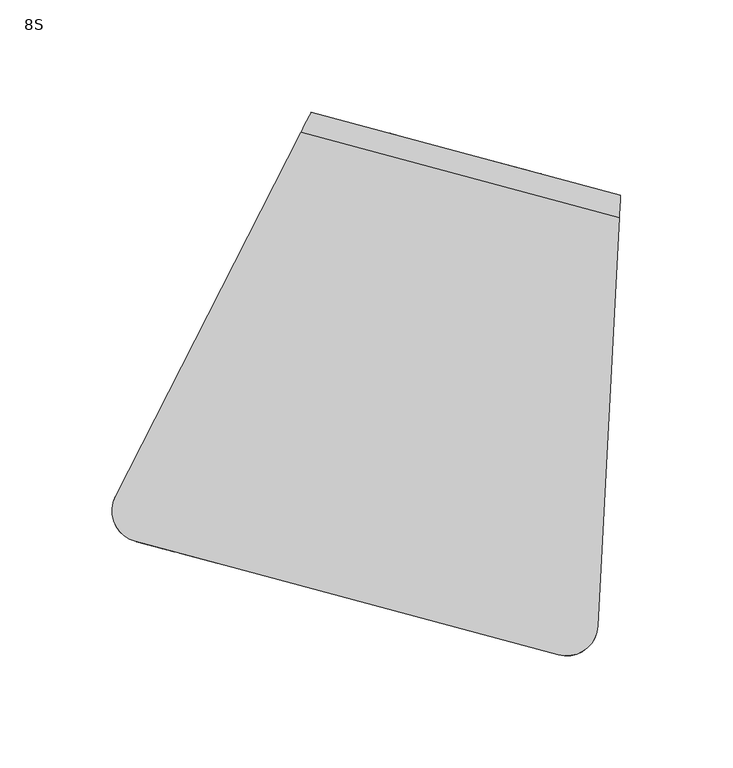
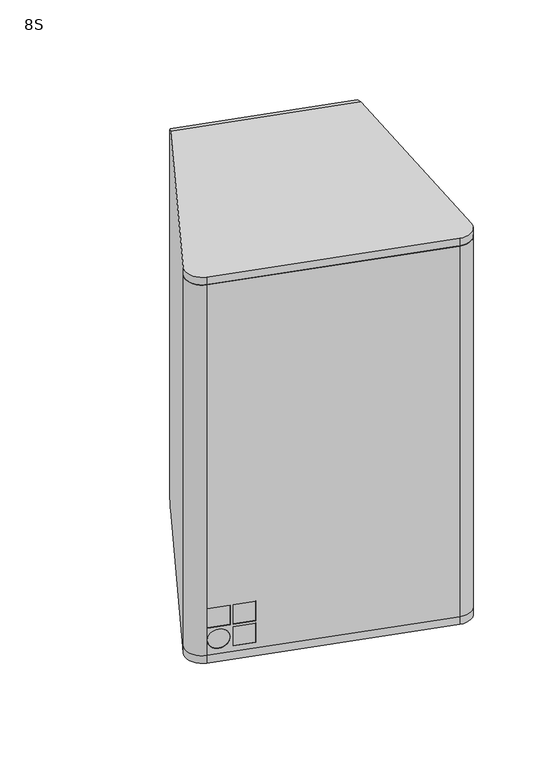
"""IFC4 building model written with IfcOpenShell, lengths in millimetres: proxy geometry, d&b xS-Series 8S Point Source : 8S."""

import ifcopenshell
import ifcopenshell.guid

model = None  # the IFC model being written
_history = None  # IfcOwnerHistory: only IFC2X3 demands one
_inside = {}  # id of a spatial element -> (the spatial element, [elements in it])
_under = {}  # id of a project, library or spatial element -> (it, [spatial elements below it])
_declared = {}  # id of a project -> (the project, [libraries it declares])
_typed = {}  # id of a type object -> (the type object, [elements of that type])
_made_of = {}  # id of a material, layer set ... -> (it, [elements and type objects made of it])


def new_model(schema):
    """Start an empty IFC model of exactly this schema.

    Asked for "IFC4X3", IfcOpenShell would pick the latest addendum, in which some entities
    have other attributes; the version numbers below select the first issue.
    IFC2X3 requires an IfcOwnerHistory on every rooted entity: one is made here for all.
    """
    global model, _history
    if schema == "IFC4X3":
        model = ifcopenshell.file(schema_version=(4, 3, 0, 0))
    else:
        model = ifcopenshell.file(schema=schema)
    _inside.clear()
    _under.clear()
    _declared.clear()
    _typed.clear()
    _made_of.clear()
    _history = None
    if model.schema == "IFC2X3":
        org = make("IfcOrganization", Name="unknown")
        user = make(
            "IfcPersonAndOrganization",
            ThePerson=make("IfcPerson", FamilyName="unknown"),
            TheOrganization=org,
        )
        app = make(
            "IfcApplication",
            ApplicationDeveloper=org,
            Version="unknown",
            ApplicationFullName="unknown",
            ApplicationIdentifier="unknown",
        )
        _history = make(
            "IfcOwnerHistory",
            OwningUser=user,
            OwningApplication=app,
            ChangeAction="ADDED",
            CreationDate=0,
        )
    return model


def make(cls, **values):
    """One entity of the class cls with the attributes given. An attribute that is None is left unset."""
    return model.create_entity(
        cls, **{name: value for name, value in values.items() if value is not None}
    )


def rooted(cls, **values):
    """An entity with a GlobalId (a new one), such as an element, a storey or a relation."""
    return make(cls, GlobalId=ifcopenshell.guid.new(), OwnerHistory=_history, **values)


def si_unit(unit_type, name, prefix=None):
    """IfcSIUnit, for example si_unit("LENGTHUNIT", "METRE", prefix="MILLI")."""
    return make("IfcSIUnit", UnitType=unit_type, Prefix=prefix, Name=name)


def assignment(units):
    """IfcUnitAssignment: the units of a project."""
    return None if units is None else make("IfcUnitAssignment", Units=units)


def point(xyz):
    """IfcCartesianPoint."""
    return None if xyz is None else make("IfcCartesianPoint", Coordinates=xyz)


def direction(xyz):
    """IfcDirection."""
    return None if xyz is None else make("IfcDirection", DirectionRatios=xyz)


def frame(location, z_axis=None, x_axis=None):
    """IfcAxis2Placement3D, a coordinate frame: its origin and axes. An axis left out is left unset."""
    return make(
        "IfcAxis2Placement3D",
        Location=point(location),
        Axis=direction(z_axis),
        RefDirection=direction(x_axis),
    )


def frame_2d(location, x_axis=None):
    """IfcAxis2Placement2D, a coordinate frame in the plane: its origin and x axis."""
    return make(
        "IfcAxis2Placement2D", Location=point(location), RefDirection=direction(x_axis)
    )


def origin():
    """The frame at (0, 0, 0) with its axes left unset."""
    return frame((0.0, 0.0, 0.0))


def place(relative_to, where):
    """IfcLocalPlacement: puts the frame where relative to a parent placement (None: the world)."""
    return make(
        "IfcLocalPlacement", PlacementRelTo=relative_to, RelativePlacement=where
    )


def context(
    kind, dimensions, precision=None, world=None, true_north=None, identifier=None
):
    """IfcGeometricRepresentationContext, for example the 3D "Model" context."""
    return make(
        "IfcGeometricRepresentationContext",
        ContextIdentifier=identifier,
        ContextType=kind,
        CoordinateSpaceDimension=dimensions,
        Precision=precision,
        WorldCoordinateSystem=world,
        TrueNorth=true_north,
    )


def project(units=None, contexts=None):
    """IfcProject with its units and contexts."""
    return rooted(
        "IfcProject",
        Name="project",
        RepresentationContexts=contexts,
        UnitsInContext=assignment(units),
    )


def spatial(cls, under=None, at=None, **own):
    """A site, building, storey or space (cls), placed at a placement, below another one or the project."""
    s = rooted(cls, ObjectPlacement=at, **own)
    if under is not None:
        _under.setdefault(under.id(), (under, []))[1].append(s)
    return s


def polyline(points):
    """IfcPolyline through the points."""
    return make("IfcPolyline", Points=[point(p) for p in points])


def circle_curve(where, radius):
    """IfcCircle in the frame where."""
    return make("IfcCircle", Position=where, Radius=radius)


def ellipse_curve(where, semi_axis1, semi_axis2):
    """IfcEllipse in the frame where."""
    return make(
        "IfcEllipse", Position=where, SemiAxis1=semi_axis1, SemiAxis2=semi_axis2
    )


def trimmed(basis, trim1, trim2, sense, master):
    """IfcTrimmedCurve: the piece of a basis curve between two trims."""
    return make(
        "IfcTrimmedCurve",
        BasisCurve=basis,
        Trim1=trim1,
        Trim2=trim2,
        SenseAgreement=sense,
        MasterRepresentation=master,
    )


def segment(curve, same_sense, transition):
    """IfcCompositeCurveSegment."""
    return make(
        "IfcCompositeCurveSegment",
        Transition=transition,
        SameSense=same_sense,
        ParentCurve=curve,
    )


def composite_curve(segments, self_intersect=None):
    """IfcCompositeCurve: segments joined end to end."""
    return make("IfcCompositeCurve", Segments=segments, SelfIntersect=self_intersect)


def outline(outer, holes=None, kind="AREA"):
    """IfcArbitraryClosedProfileDef: a profile drawn as a closed curve; with holes, ...WithVoids."""
    if holes is None:
        return make("IfcArbitraryClosedProfileDef", ProfileType=kind, OuterCurve=outer)
    return make(
        "IfcArbitraryProfileDefWithVoids",
        ProfileType=kind,
        OuterCurve=outer,
        InnerCurves=holes,
    )


def extrude(swept, where, along, depth):
    """IfcExtrudedAreaSolid: the profile swept, set in the frame where, extruded along a direction by depth."""
    return make(
        "IfcExtrudedAreaSolid",
        SweptArea=swept,
        Position=where,
        ExtrudedDirection=direction(along),
        Depth=depth,
    )


def shape(context_of_items, identifier, shape_type, items):
    """IfcShapeRepresentation: the items that make up one representation, for example the "Body"."""
    return make(
        "IfcShapeRepresentation",
        ContextOfItems=context_of_items,
        RepresentationIdentifier=identifier,
        RepresentationType=shape_type,
        Items=items,
    )


def source(mapping_origin, context_of_items, identifier, shape_type, items):
    """IfcRepresentationMap: a shape defined once, which mapped items show again and again."""
    return make(
        "IfcRepresentationMap",
        MappingOrigin=mapping_origin,
        MappedRepresentation=shape(context_of_items, identifier, shape_type, items),
    )


def transform(
    local_origin,
    x_axis=None,
    y_axis=None,
    z_axis=None,
    scale=None,
    scale2=None,
    scale3=None,
    uniform=True,
):
    """IfcCartesianTransformationOperator3D, or its non-uniform kind. x_axis, y_axis, z_axis: its Axis1, 2, 3."""
    if uniform:
        return make(
            "IfcCartesianTransformationOperator3D",
            Axis1=direction(x_axis),
            Axis2=direction(y_axis),
            LocalOrigin=point(local_origin),
            Scale=scale,
            Axis3=direction(z_axis),
        )
    return make(
        "IfcCartesianTransformationOperator3DnonUniform",
        Axis1=direction(x_axis),
        Axis2=direction(y_axis),
        LocalOrigin=point(local_origin),
        Scale=scale,
        Axis3=direction(z_axis),
        Scale2=scale2,
        Scale3=scale3,
    )


def mapped(mapping_source, mapping_target):
    """IfcMappedItem: shows the shape of a source again, moved by a transform."""
    return make(
        "IfcMappedItem", MappingSource=mapping_source, MappingTarget=mapping_target
    )


def made_of(thing, what):
    """Note that an element or type object is made of a material, layer set ...; save() writes the relation."""
    if what is not None:
        _made_of.setdefault(what.id(), (what, []))[1].append(thing)
    return thing


def element(
    cls,
    number,
    at=None,
    inside=None,
    cuts=None,
    type_object=None,
    material=None,
    context=None,
    identifier="Body",
    shape_type=None,
    held_by="IfcProductDefinitionShape",
    body=None,
    shapes=None,
    **own,
):
    """One element of the class cls, such as IfcWall. Its Tag is "e" and its number.

    at: its placement. inside: the storey or other place that contains it. cuts: it is an
    opening in that element (IfcRelVoidsElement). A single representation is given by context,
    identifier, shape_type and body (its items); several are given by shapes. held_by: the class
    of the entity that holds the representations. save() writes the other relations.
    """
    e = rooted(cls, Tag="e%d" % number, ObjectPlacement=at, **own)
    if body is not None:
        shapes = [shape(context, identifier, shape_type, body)]
    if shapes is not None:
        e.Representation = make(held_by, Representations=shapes)
    if inside is not None:
        _inside.setdefault(inside.id(), (inside, []))[1].append(e)
    if cuts is not None:
        rooted(
            "IfcRelVoidsElement", RelatingBuildingElement=cuts, RelatedOpeningElement=e
        )
    if type_object is not None:
        _typed.setdefault(type_object.id(), (type_object, []))[1].append(e)
    return made_of(e, material)


def aggregate(whole, parts):
    """IfcRelAggregates: a whole, such as a stair, and the parts it consists of."""
    return rooted("IfcRelAggregates", RelatingObject=whole, RelatedObjects=parts)


def save(model, path):
    """Write the relations noted so far, then the file.

    IfcRelAggregates (storeys below a building ...), IfcRelContainedInSpatialStructure (elements
    in a storey), IfcRelDefinesByType, IfcRelAssociatesMaterial and IfcRelDeclares: one each for
    every whole, place, type object, material and project.
    """
    for whole, parts in _under.values():
        aggregate(whole, parts)
    for where, things in _inside.values():
        rooted(
            "IfcRelContainedInSpatialStructure",
            RelatedElements=things,
            RelatingStructure=where,
        )
    for kind, things in _typed.values():
        rooted("IfcRelDefinesByType", RelatedObjects=things, RelatingType=kind)
    for what, things in _made_of.values():
        rooted("IfcRelAssociatesMaterial", RelatedObjects=things, RelatingMaterial=what)
    for by, libraries in _declared.values():
        rooted("IfcRelDeclares", RelatingContext=by, RelatedDefinitions=libraries)
    model.write(path)


def plane_surface(at):
    """IfcPlane: the flat surface through the origin of the frame at, square to its z axis."""
    return make("IfcPlane", Position=at)


def cylinder_surface(at, radius):
    """IfcCylindricalSurface: all points at the distance radius from the z axis of the frame at."""
    return make("IfcCylindricalSurface", Position=at, Radius=radius)


def revolved_surface(curve, axis_point, axis_direction):
    """IfcSurfaceOfRevolution: the curve turned about the line through axis_point along axis_direction."""
    return make(
        "IfcSurfaceOfRevolution",
        SweptCurve=make("IfcArbitraryOpenProfileDef", ProfileType="CURVE", Curve=curve),
        AxisPosition=make("IfcAxis1Placement", Location=point(axis_point), Axis=direction(axis_direction)),
    )


def advanced_brep(points, edges, surfaces, faces):
    """IfcAdvancedBrep: a solid bounded by faces that lie on surfaces and meet in shared edges.

    An edge is (start, end): straight between two places in points (the first is 0);
    or (start, end, curve); or (start, end, curve, False) where it runs against its curve.
    A face is (place in surfaces, loops), or (place, loops, False) where it looks against
    its surface's normal. A loop lists edges by number (the first is 1), with a minus sign
    where the edge is run from its end to its start. The first loop is the outer one.
    """
    corners = [point(p) for p in points]
    vertices = [make("IfcVertexPoint", VertexGeometry=c) for c in corners]
    made = []
    for start, end, *more in edges:
        made.append(
            make(
                "IfcEdgeCurve",
                EdgeStart=vertices[start],
                EdgeEnd=vertices[end],
                EdgeGeometry=more[0] if more else make("IfcPolyline", Points=[corners[start], corners[end]]),
                SameSense=more[1] if len(more) > 1 else True,
            )
        )
    hull = []
    for where, loops, *sense in faces:
        bounds = []
        for j, loop in enumerate(loops):
            ring = [make("IfcOrientedEdge", EdgeElement=made[abs(k) - 1], Orientation=k > 0) for k in loop]
            bounds.append(
                make(
                    "IfcFaceOuterBound" if j == 0 else "IfcFaceBound",
                    Bound=make("IfcEdgeLoop", EdgeList=ring),
                    Orientation=True,
                )
            )
        hull.append(make("IfcAdvancedFace", Bounds=bounds, FaceSurface=surfaces[where], SameSense=sense[0] if sense else True))
    return make("IfcAdvancedBrep", Outer=make("IfcClosedShell", CfsFaces=hull))


def proxy_8s_a2fef5f0(model_context):
    return source(origin(), model_context, "Body", "SolidModel", [
        extrude(outline(composite_curve([segment(polyline([(-124.7724429, -55.1758224), (80.455998, -110.1666174)]), True, "CONTINUOUS"), segment(trimmed(circle_curve(frame_2d((71.4765177, -110.7740172)), 9.0), [point((80.455998, -110.1666174))], [point((69.1471463, -119.4673496))], False, "CARTESIAN"), True, "CONTINUOUS"), segment(polyline([(69.1471463, -119.4673496), (-119.5193283, -68.9143201)]), True, "CONTINUOUS"), segment(trimmed(circle_curve(frame_2d((-117.1687944, -60.142008)), 9.0817658), [point((-119.5193283, -68.9143201))], [point((-124.7724429, -55.1758224))], False, "CARTESIAN"), True, "CONTINUOUS")], self_intersect=False)), frame((0.0, 0.0, -169.0), z_axis=(0.0, 0.0, 1.0), x_axis=(1.0, 0.0, 0.0)), (0.0, 0.0, 1.0), 338.0),
        advanced_brep(
        [(-103.6199439, -78.3509282, -126.5), (-102.3258486, -73.5212991, -126.5), (-102.3258486, -73.5212991, -144.0), (-103.6199439, -78.3509282, -144.0), (-119.2295506, -68.9919658, -144.0), (-120.5236458, -73.8215949, -144.0), (-119.2295506, -68.9919658, -126.5), (-120.5236458, -73.8215949, -126.5), (-84.3014273, -83.5273091, -126.5), (-83.0073321, -78.69768, -126.5), (-83.0073321, -78.69768, -144.0), (-84.3014273, -83.5273091, -144.0), (-99.9110341, -74.1683467, -144.0), (-101.2051293, -78.9979758, -144.0), (-99.9110341, -74.1683467, -126.5), (-101.2051293, -78.9979758, -126.5), (-84.3014273, -83.5273091, -146.5), (-83.0073321, -78.69768, -146.5), (-83.0073321, -78.69768, -164.0), (-84.3014273, -83.5273091, -164.0), (-99.9110341, -74.1683467, -164.0), (-101.2051293, -78.9979758, -164.0), (-99.9110341, -74.1683467, -146.5), (-101.2051293, -78.9979758, -146.5), (-112.0717948, -76.0862616, -164.0), (-110.7776996, -71.2566324, -164.0), (-110.7776996, -71.2566324, -146.5), (-112.0717948, -76.0862616, -146.5), (80.455998, -110.1666174, 169.0), (69.1471463, -119.4673496, 169.0), (-119.5193283, -68.9143201, 169.0), (-124.7724429, -55.1758224, 169.0), (-129.7612231, -53.8390827, 169.0), (-120.8134236, -73.7439492, 169.0), (67.8530511, -124.2969787, 169.0), (85.4573312, -111.5067206, 169.0), (80.455998, -110.1666174, -169.0), (85.4573312, -111.5067206, -169.0), (67.8530511, -124.2969787, -169.0), (-120.8134236, -73.7439492, -169.0), (-129.7612231, -53.8390827, -169.0), (-124.7724429, -55.1758224, -169.0), (-119.5193283, -68.9143201, -169.0), (69.1471463, -119.4673496, -169.0)],
        [
            (0, 1),
            (1, 2),
            (2, 3),
            (3, 0),
            (2, 4),
            (4, 5),
            (5, 3),
            (4, 6),
            (6, 7),
            (7, 5),
            (0, 7),
            (6, 1),
            (8, 9),
            (9, 10),
            (10, 11),
            (11, 8),
            (10, 12),
            (12, 13),
            (13, 11),
            (12, 14),
            (14, 15),
            (15, 13),
            (8, 15),
            (14, 9),
            (16, 17),
            (17, 18),
            (18, 19),
            (19, 16),
            (18, 20),
            (20, 21),
            (21, 19),
            (20, 22),
            (22, 23),
            (23, 21),
            (16, 23),
            (22, 17),
            (24, 25),
            (25, 26, circle_curve(frame((-110.7776996, -71.2566324, -155.25), z_axis=(0.25881904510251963, 0.9659258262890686, 0.0), x_axis=(0.0, 0.0, 1.0)), 8.75)),
            (26, 27),
            (27, 24, circle_curve(frame((-112.0717948, -76.0862616, -155.25), z_axis=(-0.25881904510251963, -0.9659258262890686, 0.0), x_axis=(0.0, 0.0, 1.0)), 8.75)),
            (24, 27, circle_curve(frame((-112.0717948, -76.0862616, -155.25), z_axis=(-0.25881904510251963, -0.9659258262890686, 0.0), x_axis=(0.0, 0.0, 1.0)), 8.75)),
            (26, 25, circle_curve(frame((-110.7776996, -71.2566324, -155.25), z_axis=(0.25881904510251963, 0.9659258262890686, 0.0), x_axis=(0.0, 0.0, 1.0)), 8.75)),
            (28, 29, circle_curve(frame((71.4765177, -110.7740172, 169.0), z_axis=(0.0, 0.0, -1.0), x_axis=(-0.25881904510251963, -0.9659258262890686, 0.0)), 9.0)),
            (29, 30),
            (30, 31, circle_curve(frame((-117.1687944, -60.142008, 169.0), z_axis=(0.0, 0.0, -1.0), x_axis=(-0.25881904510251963, -0.9659258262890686, 0.0)), 9.0817658)),
            (31, 32),
            (32, 33, circle_curve(frame((-117.1687944, -60.142008, 169.0), z_axis=(0.0, 0.0, 1.0), x_axis=(-0.25881904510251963, -0.9659258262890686, 0.0)), 14.0817658)),
            (33, 34),
            (34, 35, circle_curve(frame((71.4765177, -110.7740172, 169.0), z_axis=(0.0, 0.0, 1.0), x_axis=(-0.25881904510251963, -0.9659258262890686, 0.0)), 14.0)),
            (35, 28),
            (36, 37),
            (37, 38, circle_curve(frame((71.4765177, -110.7740172, -169.0), z_axis=(0.0, 0.0, -1.0), x_axis=(-0.25881904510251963, -0.9659258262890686, 0.0)), 14.0)),
            (38, 39),
            (39, 40, circle_curve(frame((-117.1687944, -60.142008, -169.0), z_axis=(0.0, 0.0, -1.0), x_axis=(-0.25881904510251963, -0.9659258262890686, 0.0)), 14.0817658)),
            (40, 41),
            (41, 42, circle_curve(frame((-117.1687944, -60.142008, -169.0), z_axis=(0.0, 0.0, 1.0), x_axis=(-0.25881904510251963, -0.9659258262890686, 0.0)), 9.0817658)),
            (42, 43),
            (43, 36, circle_curve(frame((71.4765177, -110.7740172, -169.0), z_axis=(0.0, 0.0, 1.0), x_axis=(-0.25881904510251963, -0.9659258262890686, 0.0)), 9.0)),
            (28, 36),
            (43, 29),
            (42, 30),
            (41, 31),
            (40, 32),
            (39, 33),
            (38, 34),
            (37, 35),
        ],
        [
            plane_surface(frame((-103.6199439, -78.3509282, -144.0), z_axis=(-0.9659258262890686, 0.25881904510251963, 0.0), x_axis=(0.25881904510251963, 0.9659258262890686, 0.0))),
            plane_surface(frame((-120.5236458, -73.8215949, -144.0), z_axis=(0.0, 0.0, 1.0), x_axis=(0.25881904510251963, 0.9659258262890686, 0.0))),
            plane_surface(frame((-120.5236458, -73.8215949, -126.5), z_axis=(0.9659258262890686, -0.25881904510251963, 0.0), x_axis=(0.25881904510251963, 0.9659258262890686, 0.0))),
            plane_surface(frame((-103.6199439, -78.3509282, -126.5), z_axis=(0.0, 0.0, -1.0), x_axis=(0.25881904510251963, 0.9659258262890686, 0.0))),
            plane_surface(frame((-84.3014273, -83.5273091, -144.0), z_axis=(-0.9659258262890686, 0.25881904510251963, 0.0), x_axis=(0.25881904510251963, 0.9659258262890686, 0.0))),
            plane_surface(frame((-101.2051293, -78.9979758, -144.0), z_axis=(0.0, 0.0, 1.0), x_axis=(0.25881904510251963, 0.9659258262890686, 0.0))),
            plane_surface(frame((-101.2051293, -78.9979758, -126.5), z_axis=(0.9659258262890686, -0.25881904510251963, 0.0), x_axis=(0.25881904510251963, 0.9659258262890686, 0.0))),
            plane_surface(frame((-84.3014273, -83.5273091, -126.5), z_axis=(0.0, 0.0, -1.0), x_axis=(0.25881904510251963, 0.9659258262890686, 0.0))),
            plane_surface(frame((-84.3014273, -83.5273091, -164.0), z_axis=(-0.9659258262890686, 0.25881904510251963, 0.0), x_axis=(0.25881904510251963, 0.9659258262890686, 0.0))),
            plane_surface(frame((-101.2051293, -78.9979758, -164.0), z_axis=(0.0, 0.0, 1.0), x_axis=(0.25881904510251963, 0.9659258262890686, 0.0))),
            plane_surface(frame((-101.2051293, -78.9979758, -146.5), z_axis=(0.9659258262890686, -0.25881904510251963, 0.0), x_axis=(0.25881904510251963, 0.9659258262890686, 0.0))),
            plane_surface(frame((-84.3014273, -83.5273091, -146.5), z_axis=(0.0, 0.0, -1.0), x_axis=(0.25881904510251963, 0.9659258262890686, 0.0))),
            revolved_surface(polyline([(-112.07179481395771, -76.08626159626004, -146.5), (-110.77769957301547, -71.25663240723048, -146.5)]), (-122.3592587, -114.4795995, -155.25), (-0.25881904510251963, -0.9659258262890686, 0.0)),
            plane_surface(frame((69.1471463, -119.4673496, 169.0), z_axis=(0.0, 0.0, 1.0), x_axis=(-0.9659258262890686, 0.25881904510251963, 0.0))),
            plane_surface(frame((69.1471463, -119.4673496, -169.0), z_axis=(0.0, 0.0, -1.0), x_axis=(0.9659258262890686, -0.25881904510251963, 0.0))),
            revolved_surface(polyline([(69.14714629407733, -119.46734963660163, -169.0), (69.14714629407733, -119.46734963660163, 169.0)]), (71.4765177, -110.7740172, -169.0), (0.0, 0.0, -1.0)),
            plane_surface(frame((69.1471463, -119.4673496, 169.0), z_axis=(0.2588190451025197, 0.9659258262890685, 0.0), x_axis=(0.0, 0.0, -1.0))),
            revolved_surface(polyline([(-119.51932835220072, -68.9143201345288, -169.0), (-119.51932835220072, -68.9143201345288, 169.0)]), (-117.1687944, -60.142008, -169.0), (0.0, 0.0, -1.0)),
            plane_surface(frame((-124.7724429, -55.1758224, 169.0), z_axis=(0.25881904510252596, 0.9659258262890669, 0.0), x_axis=(0.0, 0.0, -1.0))),
            cylinder_surface(frame((-117.1687944, -60.142008, -169.0), z_axis=(0.0, 0.0, 1.0), x_axis=(-0.25881904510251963, -0.9659258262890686, 0.0)), 14.0817658),
            plane_surface(frame((-120.8134236, -73.7439492, 169.0), z_axis=(-0.25881904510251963, -0.9659258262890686, 0.0), x_axis=(0.0, 0.0, -1.0))),
            cylinder_surface(frame((71.4765177, -110.7740172, -169.0), z_axis=(0.0, 0.0, 1.0), x_axis=(-0.25881904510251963, -0.9659258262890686, 0.0)), 14.0),
            plane_surface(frame((85.4573312, -111.5067206, 169.0), z_axis=(0.2588190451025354, 0.9659258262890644, 0.0), x_axis=(0.0, 0.0, -1.0))),
        ],
        [
            (0, [[1, 2, 3, 4]]),
            (1, [[-3, 5, 6, 7]]),
            (2, [[-6, 8, 9, 10]]),
            (3, [[-1, 11, -9, 12]]),
            (4, [[13, 14, 15, 16]]),
            (5, [[-15, 17, 18, 19]]),
            (6, [[-18, 20, 21, 22]]),
            (7, [[-13, 23, -21, 24]]),
            (8, [[25, 26, 27, 28]]),
            (9, [[-27, 29, 30, 31]]),
            (10, [[-30, 32, 33, 34]]),
            (11, [[-25, 35, -33, 36]]),
            (12, [[37, 38, 39, 40]]),
            (12, [[-37, 41, -39, 42]]),
            (13, [[43, 44, 45, 46, 47, 48, 49, 50]]),
            (14, [[51, 52, 53, 54, 55, 56, 57, 58]]),
            (15, [[-43, 59, -58, 60]]),
            (16, [[-44, -60, -57, 61], [-2, -12, -8, -5], [-14, -24, -20, -17], [-26, -36, -32, -29], [-38, -42]]),
            (17, [[-45, -61, -56, 62]]),
            (18, [[-46, -62, -55, 63]]),
            (19, [[-47, -63, -54, 64]]),
            (20, [[-48, -64, -53, 65], [-4, -7, -10, -11], [-16, -19, -22, -23], [-28, -31, -34, -35], [-40, -41]]),
            (21, [[-49, -65, -52, 66]]),
            (22, [[-50, -66, -51, -59]]),
        ],
    ),
        extrude(outline(polyline([(-84.3014273, -83.5273091), (-101.2051293, -78.9979758), (-99.9110341, -74.1683467), (-83.0073321, -78.69768), (-84.3014273, -83.5273091)])), frame((0.0, 0.0, -144.0), z_axis=(0.0, 0.0, 1.0), x_axis=(1.0, 0.0, 0.0)), (0.0, 0.0, 1.0), 17.5),
        extrude(outline(polyline([(-103.6199439, -78.3509282), (-120.5236458, -73.8215949), (-119.2295506, -68.9919658), (-102.3258486, -73.5212991), (-103.6199439, -78.3509282)])), frame((0.0, 0.0, -144.0), z_axis=(0.0, 0.0, 1.0), x_axis=(1.0, 0.0, 0.0)), (0.0, 0.0, 1.0), 17.5),
        extrude(outline(composite_curve([segment(trimmed(circle_curve(frame_2d((28.75, 11.2499999)), 8.75), [point((37.5, 11.2499999))], [point((20.0, 11.2499999))], False, "CARTESIAN"), True, "CONTINUOUS"), segment(trimmed(circle_curve(frame_2d((28.75, 11.2499999)), 8.75), [point((20.0, 11.2499999))], [point((37.5, 11.2499999))], False, "CARTESIAN"), True, "CONTINUOUS")], self_intersect=False)), frame((-101.2051293, -78.9979758, -126.5), z_axis=(0.25881904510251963, 0.9659258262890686, 0.0), x_axis=(0.0, 0.0, -1.0)), (0.0, 0.0, 1.0), 5.0),
        extrude(outline(polyline([(-84.3014273, -83.5273091), (-101.2051293, -78.9979758), (-99.9110341, -74.1683467), (-83.0073321, -78.69768), (-84.3014273, -83.5273091)])), frame((0.0, 0.0, -164.0), z_axis=(0.0, 0.0, 1.0), x_axis=(1.0, 0.0, 0.0)), (0.0, 0.0, 1.0), 17.5),
        advanced_brep(
        [(-8.0549089, 105.1682863, 130.0), (0.6384235, 102.8389149, 139.0), (50.8665665, 89.3803245, 139.0), (59.5598989, 87.0509531, 130.0), (59.5598989, 87.0509531, 36.0), (50.8665665, 89.3803245, 27.0), (0.6384235, 102.8389149, 27.0), (-8.0549089, 105.1682863, 36.0), (0.6678532, 102.8310292, 45.508784), (12.2589631, 99.7252007, 33.508784), (39.2460268, 92.4940388, 33.508784), (50.8371368, 89.3882102, 45.508784), (50.8371368, 89.3882102, 95.9695321), (39.2460268, 92.4940388, 107.9695321), (12.2589631, 99.7252007, 107.9695321), (0.6678532, 102.8310292, 95.9695321), (-7.2784518, 108.0660638, 130.0), (1.4148806, 105.7366924, 139.0), (51.6430236, 92.278102, 139.0), (60.336356, 89.9487306, 130.0), (60.336356, 89.9487306, 36.0), (51.6430236, 92.278102, 27.0), (1.4148806, 105.7366924, 27.0), (-7.2784518, 108.0660638, 36.0), (8.1178584, 84.2703875, 33.508784), (-3.4732515, 87.376216, 45.508784), (-3.4732515, 87.376216, 95.9695321), (8.1178584, 84.2703875, 107.9695321), (35.1049221, 77.0392255, 107.9695321), (46.696032, 73.933397, 95.9695321), (46.696032, 73.933397, 45.508784), (35.1049221, 77.0392255, 33.508784), (85.4573312, -111.5067206, 169.0), (67.8530511, -124.2969787, 169.0), (-120.8134236, -73.7439492, 169.0), (-129.7612231, -53.8390827, 169.0), (-129.7612231, -53.8390827, -169.0), (-120.8134236, -73.7439492, -169.0), (67.8530511, -124.2969787, -169.0), (85.4573312, -111.5067206, -169.0), (-129.7157396, -53.7490201, 175.729115), (-47.0305972, 108.5297091, 172.8919941), (-42.463174, 117.4937817, 162.8932619), (-42.463174, 117.4937817, -162.8932619), (-47.0305972, 108.5297091, -172.8919941), (-129.7157396, -53.7490201, -175.729115), (95.5210783, 80.5210127, 162.8932619), (95.5210783, 80.5210127, -162.8932619), (85.4573312, -111.5067206, -175.7306878), (94.9945464, 70.4741866, -172.8919941), (94.9945464, 70.4741866, 172.8919941), (85.4573312, -111.5067206, 175.7306878), (-120.8134236, -73.7439492, 176.0), (67.8530511, -124.2969787, 176.0), (-120.8134236, -73.7439492, -176.0), (67.8530511, -124.2969787, -176.0)],
        [
            (0, 1, circle_curve(frame((0.6384235, 102.8389149, 130.0), z_axis=(0.25881904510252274, 0.9659258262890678, 0.0), x_axis=(-0.9659258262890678, 0.25881904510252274, 0.0)), 9.0)),
            (1, 2),
            (2, 3, circle_curve(frame((50.8665665, 89.3803245, 130.0), z_axis=(0.25881904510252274, 0.9659258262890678, 0.0), x_axis=(-0.9659258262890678, 0.25881904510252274, 0.0)), 9.0)),
            (3, 4),
            (4, 5, circle_curve(frame((50.8665665, 89.3803245, 36.0), z_axis=(0.25881904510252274, 0.9659258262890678, 0.0), x_axis=(-0.9659258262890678, 0.25881904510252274, 0.0)), 9.0)),
            (5, 6),
            (6, 7, circle_curve(frame((0.6384235, 102.8389149, 36.0), z_axis=(0.25881904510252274, 0.9659258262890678, 0.0), x_axis=(-0.9659258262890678, 0.25881904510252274, 0.0)), 9.0)),
            (7, 0),
            (8, 9, circle_curve(frame((12.2589631, 99.7252007, 45.508784), z_axis=(-0.25881904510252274, -0.9659258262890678, 0.0), x_axis=(-0.9659258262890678, 0.25881904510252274, 0.0)), 12.0)),
            (9, 10),
            (10, 11, circle_curve(frame((39.2460268, 92.4940388, 45.508784), z_axis=(-0.25881904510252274, -0.9659258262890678, 0.0), x_axis=(-0.9659258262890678, 0.25881904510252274, 0.0)), 12.0)),
            (11, 12),
            (12, 13, circle_curve(frame((39.2460268, 92.4940388, 95.9695321), z_axis=(-0.25881904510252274, -0.9659258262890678, 0.0), x_axis=(-0.9659258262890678, 0.25881904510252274, 0.0)), 12.0)),
            (13, 14),
            (14, 15, circle_curve(frame((12.2589631, 99.7252007, 95.9695321), z_axis=(-0.25881904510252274, -0.9659258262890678, 0.0), x_axis=(-0.9659258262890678, 0.25881904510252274, 0.0)), 12.0)),
            (15, 8),
            (0, 16),
            (16, 17, circle_curve(frame((1.4148806, 105.7366924, 130.0), z_axis=(0.25881904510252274, 0.9659258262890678, 0.0), x_axis=(-0.9659258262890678, 0.25881904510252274, 0.0)), 9.0)),
            (17, 1),
            (17, 18),
            (18, 2),
            (18, 19, circle_curve(frame((51.6430236, 92.278102, 130.0), z_axis=(0.25881904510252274, 0.9659258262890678, 0.0), x_axis=(-0.9659258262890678, 0.25881904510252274, 0.0)), 9.0)),
            (19, 3),
            (19, 20),
            (20, 4),
            (20, 21, circle_curve(frame((51.6430236, 92.278102, 36.0), z_axis=(0.25881904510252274, 0.9659258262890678, 0.0), x_axis=(-0.9659258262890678, 0.25881904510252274, 0.0)), 9.0)),
            (21, 5),
            (21, 22),
            (22, 6),
            (22, 23, circle_curve(frame((1.4148806, 105.7366924, 36.0), z_axis=(0.25881904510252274, 0.9659258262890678, 0.0), x_axis=(-0.9659258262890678, 0.25881904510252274, 0.0)), 9.0)),
            (23, 7),
            (23, 16),
            (24, 25, circle_curve(frame((8.1178584, 84.2703875, 45.508784), z_axis=(0.25881904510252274, 0.9659258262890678, 0.0), x_axis=(-0.9659258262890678, 0.25881904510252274, 0.0)), 12.0)),
            (25, 26),
            (26, 27, circle_curve(frame((8.1178584, 84.2703875, 95.9695321), z_axis=(0.25881904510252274, 0.9659258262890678, 0.0), x_axis=(-0.9659258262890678, 0.25881904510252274, 0.0)), 12.0)),
            (27, 28),
            (28, 29, circle_curve(frame((35.1049221, 77.0392255, 95.9695321), z_axis=(0.25881904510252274, 0.9659258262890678, 0.0), x_axis=(-0.9659258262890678, 0.25881904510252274, 0.0)), 12.0)),
            (29, 30),
            (30, 31, circle_curve(frame((35.1049221, 77.0392255, 45.508784), z_axis=(0.25881904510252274, 0.9659258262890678, 0.0), x_axis=(-0.9659258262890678, 0.25881904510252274, 0.0)), 12.0)),
            (31, 24),
            (32, 33, circle_curve(frame((71.4765177, -110.7740172, 169.0), z_axis=(0.0, 0.0, -1.0), x_axis=(-0.25881904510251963, -0.9659258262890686, 0.0)), 14.0)),
            (33, 34),
            (34, 35, circle_curve(frame((-117.1687944, -60.142008, 169.0), z_axis=(0.0, 0.0, -1.0), x_axis=(-0.25881904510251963, -0.9659258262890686, 0.0)), 14.0817658)),
            (35, 32),
            (36, 37, circle_curve(frame((-117.1687944, -60.142008, -169.0), z_axis=(0.0, 0.0, 1.0), x_axis=(-0.25881904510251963, -0.9659258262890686, 0.0)), 14.0817658)),
            (37, 38),
            (38, 39, circle_curve(frame((71.4765177, -110.7740172, -169.0), z_axis=(0.0, 0.0, 1.0), x_axis=(-0.25881904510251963, -0.9659258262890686, 0.0)), 14.0)),
            (39, 36),
            (24, 9),
            (8, 25),
            (15, 26),
            (14, 27),
            (13, 28),
            (12, 29),
            (11, 30),
            (10, 31),
            (36, 35),
            (35, 40),
            (40, 41),
            (41, 42, ellipse_curve(frame((-47.1045032, 108.3846603, 162.8932619), z_axis=(-0.8910065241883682, 0.45399049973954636, 0.0), x_axis=(-0.45399049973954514, -0.8910065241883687, 0.0)), 10.2234059, 10.0)),
            (42, 43),
            (43, 44, ellipse_curve(frame((-47.1045032, 108.3846603, -162.8932619), z_axis=(-0.8910065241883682, 0.45399049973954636, 0.0), x_axis=(-0.45399049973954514, -0.8910065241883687, 0.0)), 10.2234059, 10.0)),
            (44, 45),
            (45, 36),
            (42, 46),
            (46, 47),
            (47, 43),
            (32, 39),
            (39, 48),
            (48, 49),
            (49, 47, ellipse_curve(frame((94.9860266, 70.3116176, -162.8932619), z_axis=(0.998629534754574, -0.052335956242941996, 0.0), x_axis=(0.05233595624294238, 0.9986295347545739, 0.0)), 10.2234059, 10.0)),
            (46, 50, ellipse_curve(frame((94.9860266, 70.3116176, 162.8932619), z_axis=(0.998629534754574, -0.052335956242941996, 0.0), x_axis=(0.05233595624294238, 0.9986295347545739, 0.0)), 10.2234059, 10.0)),
            (50, 51),
            (51, 32),
            (34, 52),
            (52, 40, ellipse_curve(frame((-117.1687944, -60.142008, 175.775741), z_axis=(-0.004121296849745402, -0.01538088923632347, -0.9998732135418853), x_axis=(-0.2587862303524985, -0.965803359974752, 0.015923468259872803)), 14.0835514, 14.0817658)),
            (33, 53),
            (53, 52),
            (51, 53, ellipse_curve(frame((71.4765177, -110.7740172, 175.7770432), z_axis=(-0.004121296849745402, -0.01538088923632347, -0.9998732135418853), x_axis=(-0.2587862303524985, -0.965803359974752, 0.015923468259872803)), 14.0017752, 14.0)),
            (45, 54, ellipse_curve(frame((-117.1687944, -60.142008, -175.775741), z_axis=(-0.004121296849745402, -0.01538088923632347, 0.9998732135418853), x_axis=(0.2587862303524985, 0.965803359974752, 0.015923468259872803)), 14.0835514, 14.0817658)),
            (54, 37),
            (54, 55),
            (55, 38),
            (55, 48, ellipse_curve(frame((71.4765177, -110.7740172, -175.7770432), z_axis=(-0.004121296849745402, -0.01538088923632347, 0.9998732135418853), x_axis=(0.2587862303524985, 0.965803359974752, 0.015923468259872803)), 14.0017752, 14.0)),
            (49, 44),
            (50, 41),
        ],
        [
            plane_surface(frame((-8.0549089, 105.1682863, 130.0), z_axis=(0.25881904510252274, 0.9659258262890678, 0.0), x_axis=(0.0, 0.0, -1.0))),
            revolved_surface(polyline([(-7.278451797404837, 108.06606379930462, 130.0), (-8.05490893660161, 105.1682863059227, 130.0)]), (0.6384235, 102.8389149, 130.0), (0.25881904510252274, 0.9659258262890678, 0.0)),
            plane_surface(frame((1.4148806, 105.7366924, 139.0), z_axis=(0.0, 0.0, -1.0), x_axis=(-0.25881904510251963, -0.9659258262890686, 0.0))),
            revolved_surface(polyline([(42.949691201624, 94.60747339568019, 130.0), (42.17323406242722, 91.70969590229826, 130.0)]), (50.8665665, 89.3803245, 130.0), (0.25881904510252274, 0.9659258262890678, 0.0)),
            plane_surface(frame((60.336356, 89.9487306, 130.0), z_axis=(-0.9659258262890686, 0.25881904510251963, 0.0), x_axis=(-0.25881904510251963, -0.9659258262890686, 0.0))),
            revolved_surface(polyline([(42.949691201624, 94.60747339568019, 36.0), (42.17323406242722, 91.70969590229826, 36.0)]), (50.8665665, 89.3803245, 36.0), (0.25881904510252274, 0.9659258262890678, 0.0)),
            plane_surface(frame((51.6430236, 92.278102, 27.0), z_axis=(0.0, 0.0, 1.0), x_axis=(-0.25881904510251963, -0.9659258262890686, 0.0))),
            revolved_surface(polyline([(-7.278451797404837, 108.06606379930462, 36.0), (-8.05490893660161, 105.1682863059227, 36.0)]), (0.6384235, 102.8389149, 36.0), (0.25881904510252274, 0.9659258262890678, 0.0)),
            plane_surface(frame((-7.2784518, 108.0660638, 36.0), z_axis=(0.9659258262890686, -0.25881904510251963, 0.0), x_axis=(-0.25881904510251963, -0.9659258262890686, 0.0))),
            plane_surface(frame((-3.4732515, 87.376216, 45.508784), z_axis=(0.25881904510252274, 0.9659258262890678, 0.0), x_axis=(0.0, 0.0, -1.0))),
            plane_surface(frame((-120.8134236, -73.7439492, 169.0), z_axis=(0.0, 0.0, -1.0), x_axis=(-0.9659258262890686, 0.25881904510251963, 0.0))),
            plane_surface(frame((-120.8134236, -73.7439492, -169.0), z_axis=(0.0, 0.0, 1.0), x_axis=(0.9659258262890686, -0.25881904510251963, 0.0))),
            revolved_surface(polyline([(0.6678531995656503, 102.83102923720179, 45.508784), (-3.4732515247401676, 87.37621600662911, 45.508784)]), (8.1178584, 84.2703875, 45.508784), (0.25881904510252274, 0.9659258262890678, 0.0)),
            plane_surface(frame((1.4443104, 105.7288067, 45.508784), z_axis=(0.9659258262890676, -0.25881904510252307, 0.0), x_axis=(-0.25881904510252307, -0.9659258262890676, 0.0))),
            revolved_surface(polyline([(0.6678531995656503, 102.83102923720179, 95.9695321), (-3.4732515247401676, 87.37621600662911, 95.9695321)]), (8.1178584, 84.2703875, 95.9695321), (0.25881904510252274, 0.9659258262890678, 0.0)),
            plane_surface(frame((13.0354203, 102.6229782, 107.9695321), z_axis=(0.0, 0.0, -1.0), x_axis=(-0.25881904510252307, -0.9659258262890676, 0.0))),
            revolved_surface(polyline([(27.654916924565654, 95.59986733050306, 95.9695321), (23.51381218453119, 80.14505404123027, 95.9695321)]), (35.1049221, 77.0392255, 95.9695321), (0.25881904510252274, 0.9659258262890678, 0.0)),
            plane_surface(frame((51.6135939, 92.2859877, 95.9695321), z_axis=(-0.9659258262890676, 0.25881904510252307, 0.0), x_axis=(-0.25881904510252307, -0.9659258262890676, 0.0))),
            revolved_surface(polyline([(27.654916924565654, 95.59986733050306, 45.508784), (23.51381218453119, 80.14505404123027, 45.508784)]), (35.1049221, 77.0392255, 45.508784), (0.25881904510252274, 0.9659258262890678, 0.0)),
            plane_surface(frame((40.022484, 95.3918162, 33.508784), z_axis=(0.0, 0.0, 1.0), x_axis=(-0.25881904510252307, -0.9659258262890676, 0.0))),
            plane_surface(frame((-129.7615801, -53.8389871, -176.0), z_axis=(-0.8910065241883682, 0.45399049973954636, 0.0), x_axis=(0.0, 0.0, 1.0))),
            plane_surface(frame((-42.463174, 117.4937817, -176.0), z_axis=(0.2588190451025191, 0.9659258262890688, 0.0), x_axis=(0.0, 0.0, 1.0))),
            plane_surface(frame((95.5210783, 80.5210127, -176.0), z_axis=(0.998629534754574, -0.052335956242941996, 0.0), x_axis=(0.0, 0.0, 1.0))),
            plane_surface(frame((85.4573312, -111.5067206, -176.0), z_axis=(-0.25881904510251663, -0.9659258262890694, 0.0), x_axis=(0.0, 0.0, 1.0))),
            cylinder_surface(frame((-117.1687944, -60.142008, 169.0), z_axis=(0.0, 0.0, 1.0), x_axis=(-0.25881904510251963, -0.9659258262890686, 0.0)), 14.0817658),
            plane_surface(frame((-120.8134236, -73.7439492, 176.0), z_axis=(-0.25881904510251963, -0.9659258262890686, 0.0), x_axis=(0.0, 0.0, -1.0))),
            cylinder_surface(frame((71.4765177, -110.7740172, 169.0), z_axis=(0.0, 0.0, 1.0), x_axis=(-0.25881904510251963, -0.9659258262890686, 0.0)), 14.0),
            cylinder_surface(frame((-117.1687944, -60.142008, -176.0), z_axis=(0.0, 0.0, 1.0), x_axis=(-0.25881904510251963, -0.9659258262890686, 0.0)), 14.0817658),
            plane_surface(frame((-120.8134236, -73.7439492, -169.0), z_axis=(-0.25881904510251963, -0.9659258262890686, 0.0), x_axis=(0.0, 0.0, -1.0))),
            cylinder_surface(frame((71.4765177, -110.7740172, -176.0), z_axis=(0.0, 0.0, 1.0), x_axis=(-0.25881904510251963, -0.9659258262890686, 0.0)), 14.0),
            cylinder_surface(frame((-91.9703375, 120.4064243, -162.8932619), z_axis=(-0.9659258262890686, 0.25881904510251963, 0.0), x_axis=(0.25881904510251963, 0.9659258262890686, 0.0)), 10.0),
            plane_surface(frame((139.8930738, 58.4436624, -172.8919941), z_axis=(0.004121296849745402, 0.01538088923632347, -0.9998732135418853), x_axis=(-0.9659258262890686, 0.25881904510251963, 0.0))),
            plane_surface(frame((89.382147, -130.0656826, 176.0), z_axis=(0.004121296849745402, 0.01538088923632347, 0.9998732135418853), x_axis=(-0.9659258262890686, 0.25881904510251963, 0.0))),
            cylinder_surface(frame((23.9407617, 89.3481389, 162.8932619), z_axis=(-0.9659258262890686, 0.25881904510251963, 0.0), x_axis=(0.25881904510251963, 0.9659258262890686, 0.0)), 10.0),
        ],
        [
            (0, [[1, 2, 3, 4, 5, 6, 7, 8], [9, 10, 11, 12, 13, 14, 15, 16]]),
            (1, [[-1, 17, 18, 19]]),
            (2, [[-2, -19, 20, 21]]),
            (3, [[-3, -21, 22, 23]]),
            (4, [[-4, -23, 24, 25]]),
            (5, [[-5, -25, 26, 27]]),
            (6, [[-6, -27, 28, 29]]),
            (7, [[-7, -29, 30, 31]]),
            (8, [[-8, -31, 32, -17]]),
            (9, [[33, 34, 35, 36, 37, 38, 39, 40]]),
            (10, [[41, 42, 43, 44]]),
            (11, [[45, 46, 47, 48]]),
            (12, [[-33, 49, -9, 50]]),
            (13, [[-34, -50, -16, 51]]),
            (14, [[-35, -51, -15, 52]]),
            (15, [[-36, -52, -14, 53]]),
            (16, [[-37, -53, -13, 54]]),
            (17, [[-38, -54, -12, 55]]),
            (18, [[-39, -55, -11, 56]]),
            (19, [[-40, -56, -10, -49]]),
            (20, [[57, 58, 59, 60, 61, 62, 63, 64]]),
            (21, [[-61, 65, 66, 67], [-18, -32, -30, -28, -26, -24, -22, -20]]),
            (22, [[68, 69, 70, 71, -66, 72, 73, 74]]),
            (23, [[-44, -57, -48, -68]]),
            (24, [[-43, 75, 76, -58]]),
            (25, [[-42, 77, 78, -75]]),
            (26, [[-41, -74, 79, -77]]),
            (27, [[-45, -64, 80, 81]]),
            (28, [[-46, -81, 82, 83]]),
            (29, [[-47, -83, 84, -69]]),
            (30, [[85, -62, -67, -71]]),
            (31, [[-85, -70, -84, -82, -80, -63]]),
            (32, [[86, -59, -76, -78, -79, -73]]),
            (33, [[-86, -72, -65, -60]]),
        ],
    ),
    ])


if __name__ == "__main__":
    model = new_model("IFC4")
    model_context = context("Model", 3, world=origin())
    ifc_project = project(units=[si_unit("LENGTHUNIT", "METRE", prefix="MILLI")], contexts=[model_context])
    site = spatial("IfcSite", under=ifc_project)
    building = spatial("IfcBuilding", under=site)
    placement = place(None, origin())
    proxy_8s_shape = proxy_8s_a2fef5f0(model_context)
    element("IfcBuildingElementProxy", 1, Name="d&b xS-Series 8S Point Source : 8S", ObjectType="d&b xS-Series 8S Point Source : 8S", at=placement, inside=building, context=model_context, shape_type="MappedRepresentation", body=[
        mapped(proxy_8s_shape, transform((0.0, 0.0, 0.0), x_axis=(1.0, 0.0, 0.0), y_axis=(0.0, 1.0, 0.0), z_axis=(0.0, 0.0, 1.0))),
    ])
    save(model, "model.ifc")
